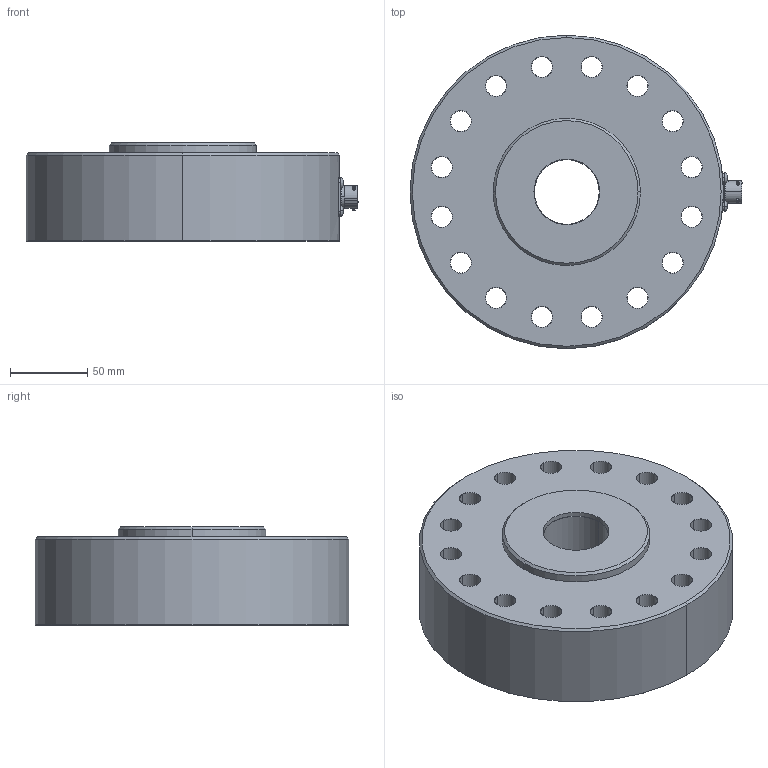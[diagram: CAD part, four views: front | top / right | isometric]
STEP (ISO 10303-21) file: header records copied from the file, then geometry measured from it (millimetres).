
FILE_DESCRIPTION (( 'STEP AP203' ), '1' );
FILE_NAME ('Interface 1232-450KN.STEP', '2011-06-07T17:49:57', ( ' ' ), ( '' ), 'SwSTEP 2.0', 'SolidWorks 2002349', '' );
FILE_SCHEMA (( 'CONFIG_CONTROL_DESIGN' ));
Length unit declared in the file: inch
Products named in the file (1): Interface 1232-450KN
Bounding box: 215.12 x 203.15 x 63.5 mm (x, y, z)
Volume: 1664177.9 mm3; surface area: 144413 mm2
Topology: 1 solids, 1 shells, 254 faces, 633 edges, 412 vertices
Faces by surface type: cylinder 104, plane 79, cone 46, bspline 22, sphere 3
Entity records: 8445 total; most frequent: CARTESIAN_POINT 2288, DIRECTION 1290, ORIENTED_EDGE 1266, EDGE_CURVE 633, AXIS2_PLACEMENT_3D 524, VERTEX_POINT 412, EDGE_LOOP 319, CIRCLE 291
